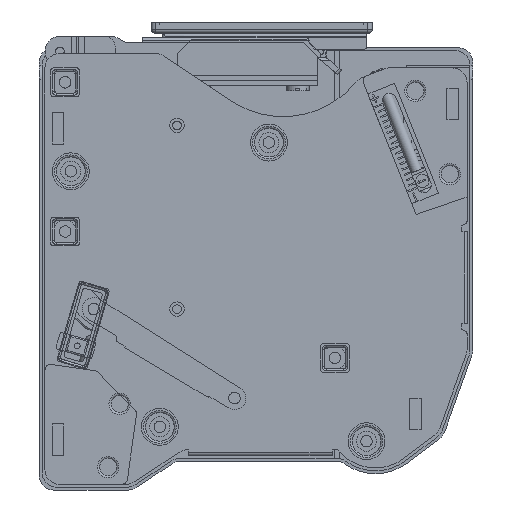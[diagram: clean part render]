
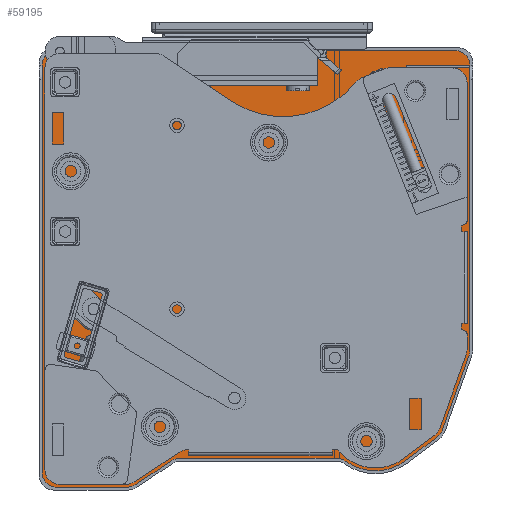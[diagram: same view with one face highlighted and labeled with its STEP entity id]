
A CAD part, left-side view. The second image highlights one B-rep face of the part: STEP entity #59195.
In plain terms, the highlighted planar face has unit normal (-1, 0, 0).
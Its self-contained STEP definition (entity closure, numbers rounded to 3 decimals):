
#2160=PLANE('',#64034);
#4895=FACE_OUTER_BOUND('',#8615,.T.);
#8615=EDGE_LOOP('',(#47269,#47270,#47271,#47272,#47273,#47274,#47275,#47276,
#47277,#47278,#47279,#47280,#47281,#47282,#47283,#47284,#47285,#47286,#47287,
#47288));
#13389=LINE('',#96984,#19245);
#13397=LINE('',#97003,#19253);
#13414=LINE('',#97065,#19270);
#13417=LINE('',#97073,#19273);
#13423=LINE('',#97087,#19279);
#13433=LINE('',#97110,#19289);
#13437=LINE('',#97120,#19293);
#13438=LINE('',#97121,#19294);
#13439=LINE('',#97124,#19295);
#13440=LINE('',#97126,#19296);
#13441=LINE('',#97127,#19297);
#19245=VECTOR('',#75538,10.);
#19253=VECTOR('',#75556,10.);
#19270=VECTOR('',#75613,10.);
#19273=VECTOR('',#75622,10.);
#19279=VECTOR('',#75638,10.);
#19289=VECTOR('',#75666,10.);
#19293=VECTOR('',#75680,10.);
#19294=VECTOR('',#75681,10.);
#19295=VECTOR('',#75684,10.);
#19296=VECTOR('',#75685,10.);
#19297=VECTOR('',#75686,10.);
#23692=CIRCLE('',#63986,5.);
#23693=CIRCLE('',#63989,5.);
#23708=CIRCLE('',#64011,5.);
#23709=CIRCLE('',#64014,5.);
#23710=CIRCLE('',#64019,5.);
#23711=CIRCLE('',#64026,5.);
#23712=CIRCLE('',#64028,5.);
#23713=CIRCLE('',#64033,5.);
#23714=CIRCLE('',#64035,17.605);
#27624=VERTEX_POINT('',#96977);
#27625=VERTEX_POINT('',#96978);
#27626=VERTEX_POINT('',#96983);
#27627=VERTEX_POINT('',#96987);
#27631=VERTEX_POINT('',#97000);
#27632=VERTEX_POINT('',#97002);
#27656=VERTEX_POINT('',#97060);
#27657=VERTEX_POINT('',#97064);
#27658=VERTEX_POINT('',#97068);
#27659=VERTEX_POINT('',#97072);
#27660=VERTEX_POINT('',#97080);
#27661=VERTEX_POINT('',#97082);
#27662=VERTEX_POINT('',#97086);
#27663=VERTEX_POINT('',#97099);
#27664=VERTEX_POINT('',#97103);
#27665=VERTEX_POINT('',#97104);
#27666=VERTEX_POINT('',#97109);
#27667=VERTEX_POINT('',#97116);
#27668=VERTEX_POINT('',#97123);
#27669=VERTEX_POINT('',#97125);
#34598=EDGE_CURVE('',#27624,#27625,#23692,.T.);
#34601=EDGE_CURVE('',#27626,#27624,#13389,.T.);
#34603=EDGE_CURVE('',#27627,#27626,#23693,.T.);
#34611=EDGE_CURVE('',#27632,#27631,#13397,.T.);
#34640=EDGE_CURVE('',#27656,#27632,#23708,.T.);
#34642=EDGE_CURVE('',#27657,#27656,#13414,.T.);
#34644=EDGE_CURVE('',#27658,#27657,#23709,.T.);
#34646=EDGE_CURVE('',#27659,#27658,#13417,.T.);
#34651=EDGE_CURVE('',#27660,#27661,#23710,.F.);
#34653=EDGE_CURVE('',#27662,#27661,#13423,.T.);
#34660=EDGE_CURVE('',#27662,#27663,#23711,.F.);
#34662=EDGE_CURVE('',#27664,#27665,#23712,.T.);
#34665=EDGE_CURVE('',#27666,#27664,#13433,.T.);
#34668=EDGE_CURVE('',#27667,#27666,#23713,.T.);
#34670=EDGE_CURVE('',#27625,#27667,#13437,.T.);
#34671=EDGE_CURVE('',#27665,#27663,#13438,.T.);
#34672=EDGE_CURVE('',#27660,#27659,#23714,.T.);
#34673=EDGE_CURVE('',#27631,#27668,#13439,.T.);
#34674=EDGE_CURVE('',#27668,#27669,#13440,.T.);
#34675=EDGE_CURVE('',#27669,#27627,#13441,.T.);
#47269=ORIENTED_EDGE('',*,*,#34598,.T.);
#47270=ORIENTED_EDGE('',*,*,#34670,.T.);
#47271=ORIENTED_EDGE('',*,*,#34668,.T.);
#47272=ORIENTED_EDGE('',*,*,#34665,.T.);
#47273=ORIENTED_EDGE('',*,*,#34662,.T.);
#47274=ORIENTED_EDGE('',*,*,#34671,.T.);
#47275=ORIENTED_EDGE('',*,*,#34660,.F.);
#47276=ORIENTED_EDGE('',*,*,#34653,.T.);
#47277=ORIENTED_EDGE('',*,*,#34651,.F.);
#47278=ORIENTED_EDGE('',*,*,#34672,.T.);
#47279=ORIENTED_EDGE('',*,*,#34646,.T.);
#47280=ORIENTED_EDGE('',*,*,#34644,.T.);
#47281=ORIENTED_EDGE('',*,*,#34642,.T.);
#47282=ORIENTED_EDGE('',*,*,#34640,.T.);
#47283=ORIENTED_EDGE('',*,*,#34611,.T.);
#47284=ORIENTED_EDGE('',*,*,#34673,.T.);
#47285=ORIENTED_EDGE('',*,*,#34674,.T.);
#47286=ORIENTED_EDGE('',*,*,#34675,.T.);
#47287=ORIENTED_EDGE('',*,*,#34603,.T.);
#47288=ORIENTED_EDGE('',*,*,#34601,.T.);
#59195=ADVANCED_FACE('',(#4895),#2160,.F.);
#63986=AXIS2_PLACEMENT_3D('',#96979,#75532,#75533);
#63989=AXIS2_PLACEMENT_3D('',#96988,#75542,#75543);
#64011=AXIS2_PLACEMENT_3D('',#97061,#75608,#75609);
#64014=AXIS2_PLACEMENT_3D('',#97069,#75617,#75618);
#64019=AXIS2_PLACEMENT_3D('',#97083,#75633,#75634);
#64026=AXIS2_PLACEMENT_3D('',#97100,#75655,#75656);
#64028=AXIS2_PLACEMENT_3D('',#97105,#75660,#75661);
#64033=AXIS2_PLACEMENT_3D('',#97117,#75675,#75676);
#64034=AXIS2_PLACEMENT_3D('',#97119,#75678,#75679);
#64035=AXIS2_PLACEMENT_3D('',#97122,#75682,#75683);
#75532=DIRECTION('center_axis',(-1.,0.,0.));
#75533=DIRECTION('ref_axis',(0.,0.707,0.707));
#75538=DIRECTION('',(0.,1.,0.));
#75542=DIRECTION('center_axis',(-1.,0.,0.));
#75543=DIRECTION('ref_axis',(0.,-0.707,0.707));
#75556=DIRECTION('',(0.,0.,1.));
#75608=DIRECTION('center_axis',(-1.,0.,0.));
#75609=DIRECTION('ref_axis',(0.,-0.985,-0.171));
#75613=DIRECTION('',(0.,-0.336,0.942));
#75617=DIRECTION('center_axis',(-1.,0.,0.));
#75618=DIRECTION('ref_axis',(0.,-0.805,-0.593));
#75622=DIRECTION('',(0.,-0.8,0.6));
#75633=DIRECTION('center_axis',(1.,0.,0.));
#75634=DIRECTION('ref_axis',(0.,-0.309,0.951));
#75638=DIRECTION('',(0.,-1.,0.));
#75655=DIRECTION('center_axis',(1.,0.,0.));
#75656=DIRECTION('ref_axis',(0.,0.29,0.957));
#75660=DIRECTION('center_axis',(-1.,0.,0.));
#75661=DIRECTION('ref_axis',(0.,-0.29,-0.957));
#75666=DIRECTION('',(0.,-1.,0.));
#75675=DIRECTION('center_axis',(-1.,0.,0.));
#75676=DIRECTION('ref_axis',(0.,0.707,-0.707));
#75678=DIRECTION('center_axis',(1.,0.,0.));
#75679=DIRECTION('ref_axis',(0.,0.,-1.));
#75680=DIRECTION('',(0.,0.,-1.));
#75681=DIRECTION('',(0.,-0.832,0.555));
#75682=DIRECTION('center_axis',(-1.,0.,0.));
#75683=DIRECTION('ref_axis',(0.,0.6,0.8));
#75684=DIRECTION('',(0.,1.,0.));
#75685=DIRECTION('',(0.,0.,1.));
#75686=DIRECTION('',(0.,-1.,0.));
#96977=CARTESIAN_POINT('',(14.5,69.5,76.));
#96978=CARTESIAN_POINT('',(14.5,74.5,71.));
#96979=CARTESIAN_POINT('Origin',(14.5,69.5,71.));
#96983=CARTESIAN_POINT('',(14.5,-69.5,76.));
#96984=CARTESIAN_POINT('',(14.5,37.25,76.));
#96987=CARTESIAN_POINT('',(14.5,-74.5,71.));
#96988=CARTESIAN_POINT('Origin',(14.5,-69.5,71.));
#97000=CARTESIAN_POINT('',(14.5,-74.5,70.));
#97002=CARTESIAN_POINT('',(14.5,-74.5,-28.307));
#97003=CARTESIAN_POINT('',(14.5,-74.5,35.5));
#97060=CARTESIAN_POINT('',(14.5,-74.209,-29.989));
#97061=CARTESIAN_POINT('Origin',(14.5,-69.5,-28.307));
#97064=CARTESIAN_POINT('',(14.5,-64.846,-56.203));
#97065=CARTESIAN_POINT('',(14.5,-74.906,-28.035));
#97068=CARTESIAN_POINT('',(14.5,-63.138,-58.522));
#97069=CARTESIAN_POINT('Origin',(14.5,-60.138,-54.522));
#97072=CARTESIAN_POINT('',(14.5,-52.1,-66.8));
#97073=CARTESIAN_POINT('',(14.5,-57.58,-62.69));
#97080=CARTESIAN_POINT('',(14.5,-31.185,-66.956));
#97082=CARTESIAN_POINT('',(14.5,-28.245,-66.));
#97083=CARTESIAN_POINT('Origin',(14.5,-28.245,-71.));
#97086=CARTESIAN_POINT('',(14.5,26.683,-66.));
#97087=CARTESIAN_POINT('',(14.5,-14.992,-66.));
#97099=CARTESIAN_POINT('',(14.5,29.457,-66.84));
#97100=CARTESIAN_POINT('Origin',(14.5,26.683,-71.));
#97103=CARTESIAN_POINT('',(14.5,44.711,-76.));
#97104=CARTESIAN_POINT('',(14.5,41.938,-75.16));
#97105=CARTESIAN_POINT('Origin',(14.5,44.711,-71.));
#97109=CARTESIAN_POINT('',(14.5,69.5,-76.));
#97110=CARTESIAN_POINT('',(14.5,21.599,-76.));
#97116=CARTESIAN_POINT('',(14.5,74.5,-71.));
#97117=CARTESIAN_POINT('Origin',(14.5,69.5,-71.));
#97119=CARTESIAN_POINT('Origin',(14.5,0.,0.));
#97120=CARTESIAN_POINT('',(14.5,74.5,-38.));
#97121=CARTESIAN_POINT('',(14.5,3.206,-49.339));
#97122=CARTESIAN_POINT('Origin',(14.5,-41.537,-52.716));
#97123=CARTESIAN_POINT('',(14.5,-52.5,70.));
#97124=CARTESIAN_POINT('',(14.5,-26.25,70.));
#97125=CARTESIAN_POINT('',(14.5,-52.5,71.));
#97126=CARTESIAN_POINT('',(14.5,-52.5,35.5));
#97127=CARTESIAN_POINT('',(14.5,-37.25,71.));
